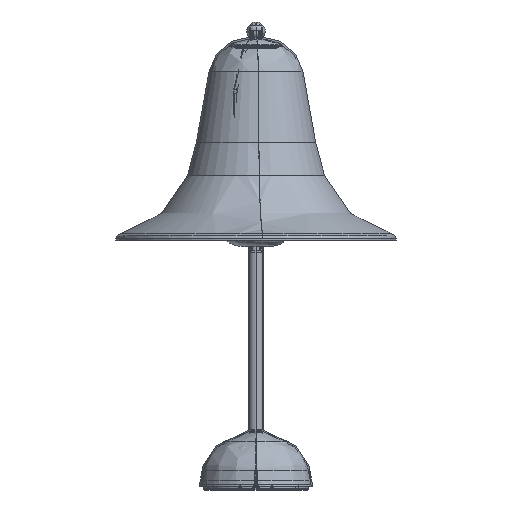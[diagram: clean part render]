
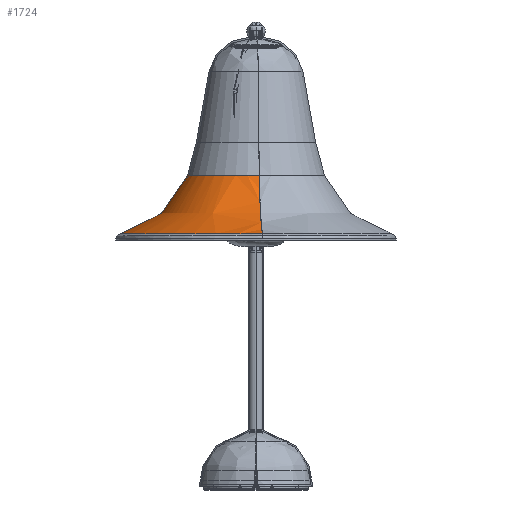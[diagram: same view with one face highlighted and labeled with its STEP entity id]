
A CAD part, left-side view. The second image highlights one B-rep face of the part: STEP entity #1724.
In plain terms, the highlighted free-form (B-spline) face has degree [2, 2] with [9, 9] control points.
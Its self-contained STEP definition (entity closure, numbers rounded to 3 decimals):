
#834=(
BOUNDED_SURFACE()
B_SPLINE_SURFACE(2,2,((#33109,#33110,#33111,#33112,#33113,#33114,#33115,
#33116,#33117),(#33118,#33119,#33120,#33121,#33122,#33123,#33124,#33125,
#33126),(#33127,#33128,#33129,#33130,#33131,#33132,#33133,#33134,#33135),
(#33136,#33137,#33138,#33139,#33140,#33141,#33142,#33143,#33144),(#33145,
#33146,#33147,#33148,#33149,#33150,#33151,#33152,#33153),(#33154,#33155,
#33156,#33157,#33158,#33159,#33160,#33161,#33162),(#33163,#33164,#33165,
#33166,#33167,#33168,#33169,#33170,#33171),(#33172,#33173,#33174,#33175,
#33176,#33177,#33178,#33179,#33180),(#33181,#33182,#33183,#33184,#33185,
#33186,#33187,#33188,#33189)),.UNSPECIFIED.,.T.,.F.,.F.)
B_SPLINE_SURFACE_WITH_KNOTS((3,2,2,2,3),(3,2,2,2,3),(0.,117.81,
235.619,353.429,471.239),(0.,198.919,
397.838,596.757,795.676),.UNSPECIFIED.)
GEOMETRIC_REPRESENTATION_ITEM()
RATIONAL_B_SPLINE_SURFACE(((1.,0.707,1.,0.707,1.,
0.707,1.,0.707,1.),(0.707,0.5,0.707,
0.5,0.707,0.5,0.707,0.5,0.707),(1.,
0.707,1.,0.707,1.,0.707,1.,0.707,
1.),(0.707,0.5,0.707,0.5,0.707,0.5,
0.707,0.5,0.707),(1.,0.707,1.,0.707,
1.,0.707,1.,0.707,1.),(0.707,0.5,0.707,
0.5,0.707,0.5,0.707,0.5,0.707),(1.,
0.707,1.,0.707,1.,0.707,1.,0.707,
1.),(0.707,0.5,0.707,0.5,0.707,0.5,
0.707,0.5,0.707),(1.,0.707,1.,0.707,
1.,0.707,1.,0.707,1.)))
REPRESENTATION_ITEM('')
SURFACE()
);
#1724=ADVANCED_FACE('',(#3071),#834,.T.);
#3071=FACE_OUTER_BOUND('',#4430,.T.);
#4430=EDGE_LOOP('',(#6226,#6227,#6228,#6229));
#6226=ORIENTED_EDGE('',*,*,#12650,.T.);
#6227=ORIENTED_EDGE('',*,*,#12649,.F.);
#6228=ORIENTED_EDGE('',*,*,#12642,.F.);
#6229=ORIENTED_EDGE('',*,*,#12648,.F.);
#12642=EDGE_CURVE('',#20415,#20416,#15941,.T.);
#12648=EDGE_CURVE('',#20418,#20415,#15947,.T.);
#12649=EDGE_CURVE('',#20416,#20417,#15948,.T.);
#12650=EDGE_CURVE('',#20418,#20417,#15949,.T.);
#15941=TRIMMED_CURVE($,#17030,(#33526),(#33527),.T.,.CARTESIAN.);
#15947=TRIMMED_CURVE($,#17036,(#33544),(#33545),.T.,.CARTESIAN.);
#15948=TRIMMED_CURVE($,#17037,(#33547),(#33548),.T.,.CARTESIAN.);
#15949=TRIMMED_CURVE($,#17038,(#33550),(#33551),.T.,.CARTESIAN.);
#17030=CIRCLE('',#25795,111.115);
#17036=CIRCLE('',#25801,75.);
#17037=CIRCLE('',#25802,75.);
#17038=CIRCLE('',#25803,56.06);
#20415=VERTEX_POINT('',#33410);
#20416=VERTEX_POINT('',#33411);
#20417=VERTEX_POINT('',#33412);
#20418=VERTEX_POINT('',#33413);
#25795=AXIS2_PLACEMENT_3D($,#33525,#28010,#28011);
#25801=AXIS2_PLACEMENT_3D($,#33543,#28022,#28023);
#25802=AXIS2_PLACEMENT_3D($,#33546,#28024,#28025);
#25803=AXIS2_PLACEMENT_3D($,#33549,#28026,#28027);
#28010=DIRECTION('',(0.,-1.,0.));
#28011=DIRECTION('',(1.,0.,0.));
#28022=DIRECTION('',(0.,0.,1.));
#28023=DIRECTION('',(-0.941,-0.338,0.));
#28024=DIRECTION('',(0.,0.,1.));
#28025=DIRECTION('',(0.207,-0.978,0.));
#28026=DIRECTION('',(0.,-1.,0.));
#28027=DIRECTION('',(1.,0.,0.));
#33109=CARTESIAN_POINT('',(-201.636,-87.624,0.));
#33110=CARTESIAN_POINT('',(-201.636,-87.624,-201.636));
#33111=CARTESIAN_POINT('',(0.,-87.624,-201.636));
#33112=CARTESIAN_POINT('',(201.636,-87.624,-201.636));
#33113=CARTESIAN_POINT('',(201.636,-87.624,0.));
#33114=CARTESIAN_POINT('',(201.636,-87.624,201.636));
#33115=CARTESIAN_POINT('',(0.,-87.624,201.636));
#33116=CARTESIAN_POINT('',(-201.636,-87.624,201.636));
#33117=CARTESIAN_POINT('',(-201.636,-87.624,0.));
#33118=CARTESIAN_POINT('',(-201.636,-162.624,0.));
#33119=CARTESIAN_POINT('',(-201.636,-162.624,-201.636));
#33120=CARTESIAN_POINT('',(0.,-162.624,-201.636));
#33121=CARTESIAN_POINT('',(201.636,-162.624,-201.636));
#33122=CARTESIAN_POINT('',(201.636,-162.624,0.));
#33123=CARTESIAN_POINT('',(201.636,-162.624,201.636));
#33124=CARTESIAN_POINT('',(0.,-162.624,201.636));
#33125=CARTESIAN_POINT('',(-201.636,-162.624,201.636));
#33126=CARTESIAN_POINT('',(-201.636,-162.624,0.));
#33127=CARTESIAN_POINT('',(-126.636,-162.624,0.));
#33128=CARTESIAN_POINT('',(-126.636,-162.624,-126.636));
#33129=CARTESIAN_POINT('',(0.,-162.624,-126.636));
#33130=CARTESIAN_POINT('',(126.636,-162.624,-126.636));
#33131=CARTESIAN_POINT('',(126.636,-162.624,0.));
#33132=CARTESIAN_POINT('',(126.636,-162.624,126.636));
#33133=CARTESIAN_POINT('',(0.,-162.624,126.636));
#33134=CARTESIAN_POINT('',(-126.636,-162.624,126.636));
#33135=CARTESIAN_POINT('',(-126.636,-162.624,0.));
#33136=CARTESIAN_POINT('',(-51.636,-162.624,0.));
#33137=CARTESIAN_POINT('',(-51.636,-162.624,-51.636));
#33138=CARTESIAN_POINT('',(0.,-162.624,-51.636));
#33139=CARTESIAN_POINT('',(51.636,-162.624,-51.636));
#33140=CARTESIAN_POINT('',(51.636,-162.624,0.));
#33141=CARTESIAN_POINT('',(51.636,-162.624,51.636));
#33142=CARTESIAN_POINT('',(0.,-162.624,51.636));
#33143=CARTESIAN_POINT('',(-51.636,-162.624,51.636));
#33144=CARTESIAN_POINT('',(-51.636,-162.624,0.));
#33145=CARTESIAN_POINT('',(-51.636,-87.624,0.));
#33146=CARTESIAN_POINT('',(-51.636,-87.624,-51.636));
#33147=CARTESIAN_POINT('',(0.,-87.624,-51.636));
#33148=CARTESIAN_POINT('',(51.636,-87.624,-51.636));
#33149=CARTESIAN_POINT('',(51.636,-87.624,0.));
#33150=CARTESIAN_POINT('',(51.636,-87.624,51.636));
#33151=CARTESIAN_POINT('',(0.,-87.624,51.636));
#33152=CARTESIAN_POINT('',(-51.636,-87.624,51.636));
#33153=CARTESIAN_POINT('',(-51.636,-87.624,0.));
#33154=CARTESIAN_POINT('',(-51.636,-12.624,0.));
#33155=CARTESIAN_POINT('',(-51.636,-12.624,-51.636));
#33156=CARTESIAN_POINT('',(0.,-12.624,-51.636));
#33157=CARTESIAN_POINT('',(51.636,-12.624,-51.636));
#33158=CARTESIAN_POINT('',(51.636,-12.624,0.));
#33159=CARTESIAN_POINT('',(51.636,-12.624,51.636));
#33160=CARTESIAN_POINT('',(0.,-12.624,51.636));
#33161=CARTESIAN_POINT('',(-51.636,-12.624,51.636));
#33162=CARTESIAN_POINT('',(-51.636,-12.624,0.));
#33163=CARTESIAN_POINT('',(-126.636,-12.624,0.));
#33164=CARTESIAN_POINT('',(-126.636,-12.624,-126.636));
#33165=CARTESIAN_POINT('',(0.,-12.624,-126.636));
#33166=CARTESIAN_POINT('',(126.636,-12.624,-126.636));
#33167=CARTESIAN_POINT('',(126.636,-12.624,0.));
#33168=CARTESIAN_POINT('',(126.636,-12.624,126.636));
#33169=CARTESIAN_POINT('',(0.,-12.624,126.636));
#33170=CARTESIAN_POINT('',(-126.636,-12.624,126.636));
#33171=CARTESIAN_POINT('',(-126.636,-12.624,0.));
#33172=CARTESIAN_POINT('',(-201.636,-12.624,0.));
#33173=CARTESIAN_POINT('',(-201.636,-12.624,-201.636));
#33174=CARTESIAN_POINT('',(0.,-12.624,-201.636));
#33175=CARTESIAN_POINT('',(201.636,-12.624,-201.636));
#33176=CARTESIAN_POINT('',(201.636,-12.624,0.));
#33177=CARTESIAN_POINT('',(201.636,-12.624,201.636));
#33178=CARTESIAN_POINT('',(0.,-12.624,201.636));
#33179=CARTESIAN_POINT('',(-201.636,-12.624,201.636));
#33180=CARTESIAN_POINT('',(-201.636,-12.624,0.));
#33181=CARTESIAN_POINT('',(-201.636,-87.624,0.));
#33182=CARTESIAN_POINT('',(-201.636,-87.624,-201.636));
#33183=CARTESIAN_POINT('',(0.,-87.624,-201.636));
#33184=CARTESIAN_POINT('',(201.636,-87.624,-201.636));
#33185=CARTESIAN_POINT('',(201.636,-87.624,0.));
#33186=CARTESIAN_POINT('',(201.636,-87.624,201.636));
#33187=CARTESIAN_POINT('',(0.,-87.624,201.636));
#33188=CARTESIAN_POINT('',(-201.636,-87.624,201.636));
#33189=CARTESIAN_POINT('',(-201.636,-87.624,0.));
#33410=CARTESIAN_POINT('',(111.115,-161.,0.));
#33411=CARTESIAN_POINT('',(-111.115,-161.,0.));
#33412=CARTESIAN_POINT('',(-56.06,-113.001,0.));
#33413=CARTESIAN_POINT('',(56.06,-113.001,0.));
#33525=CARTESIAN_POINT('',(0.,-161.,0.));
#33526=CARTESIAN_POINT('',(111.115,-161.,0.));
#33527=CARTESIAN_POINT('',(-111.115,-161.,0.));
#33543=CARTESIAN_POINT('',(126.636,-87.624,0.));
#33544=CARTESIAN_POINT('',(56.06,-113.001,0.));
#33545=CARTESIAN_POINT('',(111.115,-161.,0.));
#33546=CARTESIAN_POINT('',(-126.636,-87.624,0.));
#33547=CARTESIAN_POINT('',(-111.115,-161.,0.));
#33548=CARTESIAN_POINT('',(-56.06,-113.001,0.));
#33549=CARTESIAN_POINT('',(0.,-113.001,0.));
#33550=CARTESIAN_POINT('',(56.06,-113.001,0.));
#33551=CARTESIAN_POINT('',(-56.06,-113.001,0.));
